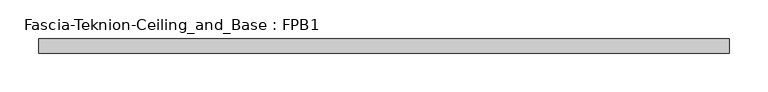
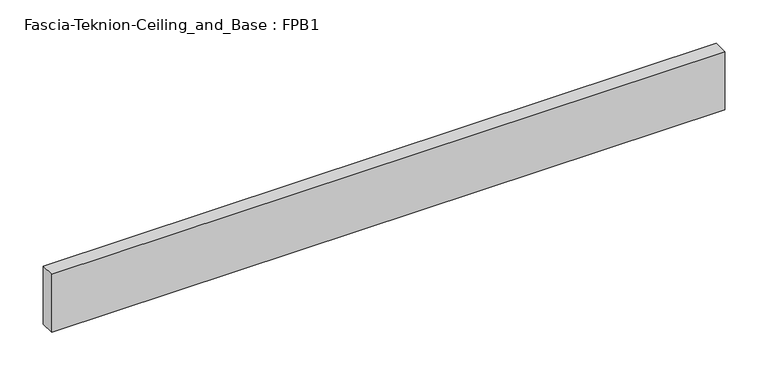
"""IFC4 building model written with IfcOpenShell, lengths in millimetres: proxy geometry, Fascia-Teknion-Ceiling_and_Base : FPB1."""

from ifc_helpers import new_model, si_unit, origin, origin_with_axes, place, context, project, spatial, polyline, outline, extrude, source, transform, mapped, element, save


def fascia_teknion_ceiling_and_base_fpb1_cd47c96b(model_context):
    return source(origin(), model_context, "Body", "SweptSolid", [
        extrude(outline(polyline([(447.0356344, 0.0), (-447.0356344, 0.0), (-447.0356344, 19.05), (447.0356344, 19.05), (447.0356344, 0.0)])), origin_with_axes(), (0.0, 0.0, 1.0), 81.28),
    ])


if __name__ == "__main__":
    model = new_model("IFC4")
    model_context = context("Model", 3, world=origin())
    ifc_project = project(units=[si_unit("LENGTHUNIT", "METRE", prefix="MILLI")], contexts=[model_context])
    site = spatial("IfcSite", under=ifc_project)
    building = spatial("IfcBuilding", under=site)
    placement = place(None, origin())
    fascia_teknion_ceiling_and_base_fpb1_shape = fascia_teknion_ceiling_and_base_fpb1_cd47c96b(model_context)
    element("IfcBuildingElementProxy", 1, Name="Fascia-Teknion-Ceiling_and_Base : FPB1", ObjectType="Fascia-Teknion-Ceiling_and_Base : FPB1", at=placement, inside=building, context=model_context, shape_type="MappedRepresentation", body=[
        mapped(fascia_teknion_ceiling_and_base_fpb1_shape, transform((0.0, 0.0, 0.0), x_axis=(1.0, 0.0, 0.0), y_axis=(0.0, 1.0, 0.0), z_axis=(0.0, 0.0, 1.0))),
    ])
    save(model, "model.ifc")
